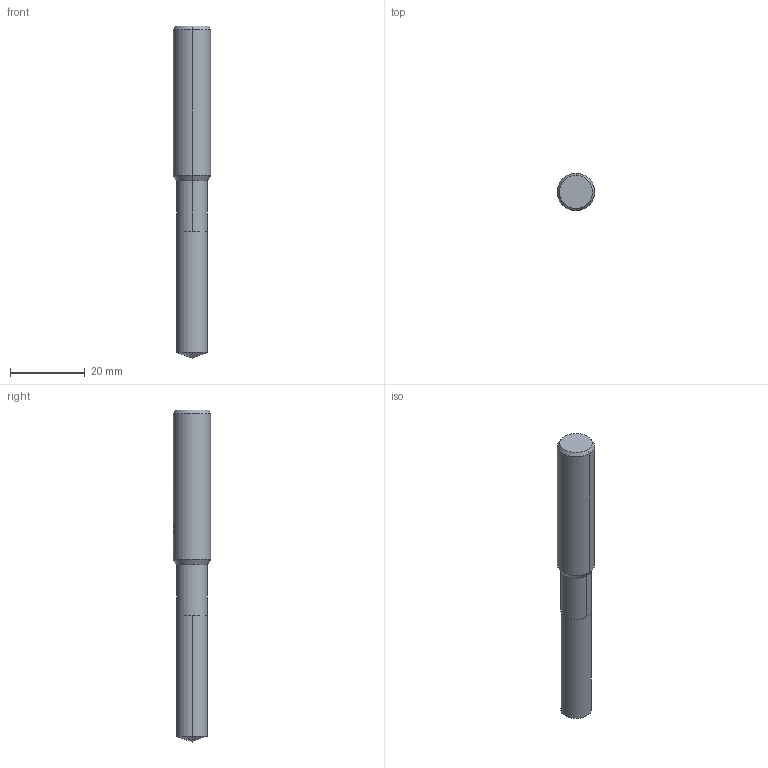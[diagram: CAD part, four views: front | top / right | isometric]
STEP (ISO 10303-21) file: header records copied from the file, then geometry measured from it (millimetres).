
FILE_DESCRIPTION(('no description'),'unknown implementation level');
FILE_NAME('solid_4ML7oWUJsT7yqxFnlzKAM5khqE_1.STP',' ',('CIMSOURCE GmbH'),('CADClick - KiM GmbH - www.kimweb.de'),'unknown preprocess','ACIS','unknown authorization');
FILE_SCHEMA(('automotive_design'));
Length unit declared in the file: millimetre
Products named in the file (2): NOCUT; CUT
Bounding box: 10 x 10 x 89 mm (x, y, z)
Volume: 5746.3 mm3; surface area: 2737.2 mm2
Topology: 2 solids, 2 shells, 28 faces, 67 edges, 41 vertices
Faces by surface type: cylinder 14, plane 8, cone 6
Entity records: 1833 total; most frequent: CARTESIAN_POINT 390, DIRECTION 139, STYLED_ITEM 136, PRESENTATION_STYLE_ASSIGNMENT 136, COLOUR_RGB 136, ORIENTED_EDGE 130, EDGE_CURVE 65, CURVE_STYLE 65
